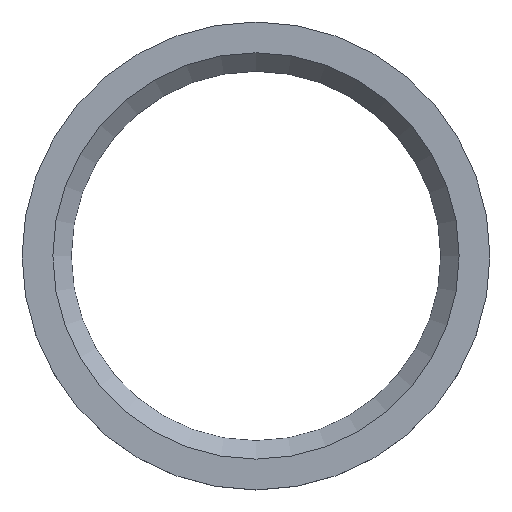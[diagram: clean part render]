
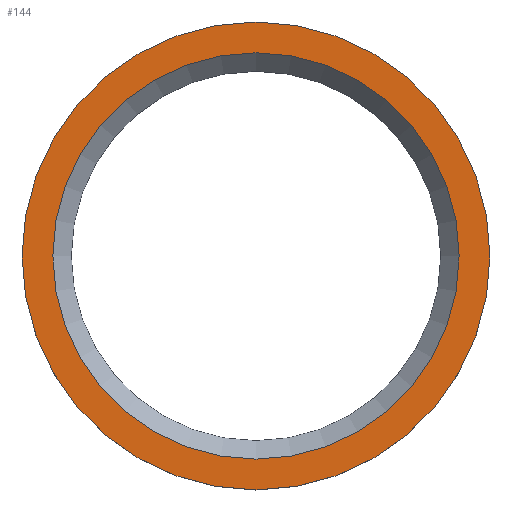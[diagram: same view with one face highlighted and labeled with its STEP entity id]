
A CAD part, top view. The second image highlights one B-rep face of the part: STEP entity #144.
In plain terms, the highlighted planar face has unit normal (0, 0, 1).
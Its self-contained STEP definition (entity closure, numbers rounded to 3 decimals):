
#24 = VERTEX_POINT('',#25);
#25 = CARTESIAN_POINT('',(38.,0.,8.));
#32 = CYLINDRICAL_SURFACE('',#33,38.);
#33 = AXIS2_PLACEMENT_3D('',#34,#35,#36);
#34 = CARTESIAN_POINT('',(0.,0.,0.));
#35 = DIRECTION('',(-0.,-0.,-1.));
#36 = DIRECTION('',(1.,0.,0.));
#51 = EDGE_CURVE('',#24,#24,#52,.T.);
#52 = SURFACE_CURVE('',#53,(#58,#65),.PCURVE_S1.);
#53 = CIRCLE('',#54,38.);
#54 = AXIS2_PLACEMENT_3D('',#55,#56,#57);
#55 = CARTESIAN_POINT('',(0.,0.,8.));
#56 = DIRECTION('',(0.,0.,1.));
#57 = DIRECTION('',(1.,0.,0.));
#58 = PCURVE('',#32,#59);
#59 = DEFINITIONAL_REPRESENTATION('',(#60),#64);
#60 = LINE('',#61,#62);
#61 = CARTESIAN_POINT('',(-0.,-8.));
#62 = VECTOR('',#63,1.);
#63 = DIRECTION('',(-1.,0.));
#64 = ( GEOMETRIC_REPRESENTATION_CONTEXT(2) 
PARAMETRIC_REPRESENTATION_CONTEXT() REPRESENTATION_CONTEXT('2D SPACE',''
  ) );
#65 = PCURVE('',#66,#71);
#66 = PLANE('',#67);
#67 = AXIS2_PLACEMENT_3D('',#68,#69,#70);
#68 = CARTESIAN_POINT('',(0.,0.,8.));
#69 = DIRECTION('',(0.,0.,1.));
#70 = DIRECTION('',(1.,0.,-0.));
#71 = DEFINITIONAL_REPRESENTATION('',(#72),#76);
#72 = CIRCLE('',#73,38.);
#73 = AXIS2_PLACEMENT_2D('',#74,#75);
#74 = CARTESIAN_POINT('',(0.,0.));
#75 = DIRECTION('',(1.,0.));
#76 = ( GEOMETRIC_REPRESENTATION_CONTEXT(2) 
PARAMETRIC_REPRESENTATION_CONTEXT() REPRESENTATION_CONTEXT('2D SPACE',''
  ) );
#144 = ADVANCED_FACE('',(#145,#148),#66,.T.);
#145 = FACE_BOUND('',#146,.T.);
#146 = EDGE_LOOP('',(#147));
#147 = ORIENTED_EDGE('',*,*,#51,.T.);
#148 = FACE_BOUND('',#149,.T.);
#149 = EDGE_LOOP('',(#150));
#150 = ORIENTED_EDGE('',*,*,#151,.F.);
#151 = EDGE_CURVE('',#152,#152,#154,.T.);
#152 = VERTEX_POINT('',#153);
#153 = CARTESIAN_POINT('',(33.,0.,8.));
#154 = SURFACE_CURVE('',#155,(#160,#167),.PCURVE_S1.);
#155 = CIRCLE('',#156,33.);
#156 = AXIS2_PLACEMENT_3D('',#157,#158,#159);
#157 = CARTESIAN_POINT('',(0.,0.,8.));
#158 = DIRECTION('',(0.,0.,1.));
#159 = DIRECTION('',(1.,0.,-0.));
#160 = PCURVE('',#66,#161);
#161 = DEFINITIONAL_REPRESENTATION('',(#162),#166);
#162 = CIRCLE('',#163,33.);
#163 = AXIS2_PLACEMENT_2D('',#164,#165);
#164 = CARTESIAN_POINT('',(0.,0.));
#165 = DIRECTION('',(1.,0.));
#166 = ( GEOMETRIC_REPRESENTATION_CONTEXT(2) 
PARAMETRIC_REPRESENTATION_CONTEXT() REPRESENTATION_CONTEXT('2D SPACE',''
  ) );
#167 = PCURVE('',#168,#173);
#168 = CONICAL_SURFACE('',#169,30.,0.785);
#169 = AXIS2_PLACEMENT_3D('',#170,#171,#172);
#170 = CARTESIAN_POINT('',(0.,0.,5.));
#171 = DIRECTION('',(0.,0.,1.));
#172 = DIRECTION('',(1.,0.,-0.));
#173 = DEFINITIONAL_REPRESENTATION('',(#174),#178);
#174 = LINE('',#175,#176);
#175 = CARTESIAN_POINT('',(0.,3.));
#176 = VECTOR('',#177,1.);
#177 = DIRECTION('',(1.,0.));
#178 = ( GEOMETRIC_REPRESENTATION_CONTEXT(2) 
PARAMETRIC_REPRESENTATION_CONTEXT() REPRESENTATION_CONTEXT('2D SPACE',''
  ) );
